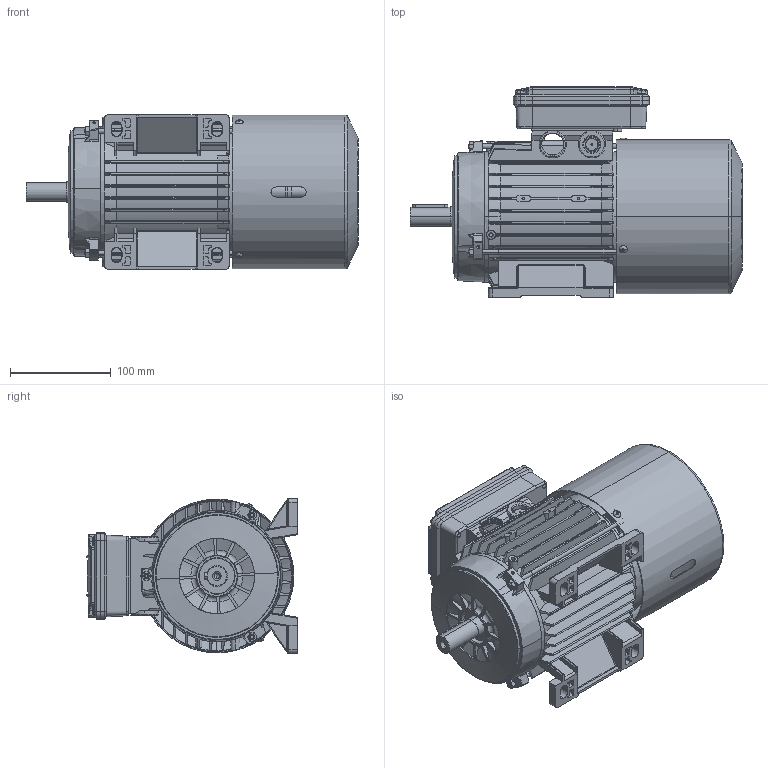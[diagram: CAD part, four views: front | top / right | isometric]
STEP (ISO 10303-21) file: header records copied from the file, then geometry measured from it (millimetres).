
FILE_DESCRIPTION (( 'STEP AP214' ), '1' );
FILE_NAME ('M14DA0011.STEP', '2019-01-31T14:00:35', ( '' ), ( '' ), 'SwSTEP 2.0', 'SolidWorks 2018', '' );
FILE_SCHEMA (( 'AUTOMOTIVE_DESIGN' ));
Length unit declared in the file: millimetre
Products named in the file (15): Cuffia BM 80 - Asola LSM; Tirante SM 80; Scudo Lato Comando B3 BA-BM 80 - DCAD0094; Chiavetta 80; Albero BM 80; Carcassa 80 B3; M14DA0011; Scatola per Morsettiera Doppia 63-71-80 - Completa; Guarnizione Scatola Singola 63-71-80; Vite per coperchio morsettiera; Coperchio per Scatola per Morsettiera Doppia 63-71-80; Scatola per Morsettiera Doppia 63-71-80; Dado M5; Vite testa rotonda M3; Scudo Lato Freno P1 BM 80 - DCAH0195
Assembly tree (23 placements, depth 3):
  M14DA0011
    Carcassa 80 B3
    Albero BM 80
    Chiavetta 80
    Scudo Lato Comando B3 BA-BM 80 - DCAD0094
    Tirante SM 80  x3
    Cuffia BM 80 - Asola LSM
    Scudo Lato Freno P1 BM 80 - DCAH0195
    Vite testa rotonda M3  x3
    Dado M5  x3
    Scatola per Morsettiera Doppia 63-71-80 - Completa
      Scatola per Morsettiera Doppia 63-71-80
      Coperchio per Scatola per Morsettiera Doppia 63-71-80
      Vite per coperchio morsettiera  x4
      Guarnizione Scatola Singola 63-71-80
Bounding box: 330 x 209.5 x 154 mm (x, y, z)
Volume: 874767.5 mm3; surface area: 611306.9 mm2
Topology: 25 solids, 25 shells, 2993 faces, 8076 edges, 5187 vertices
Faces by surface type: cylinder 1094, plane 1062, torus 348, cone 286, bspline 185, sphere 18
Entity records: 100512 total; most frequent: CARTESIAN_POINT 34870, ORIENTED_EDGE 14230, DIRECTION 12808, EDGE_CURVE 7115, AXIS2_PLACEMENT_3D 4809, VERTEX_POINT 4601, VECTOR 3190, LINE 3190
